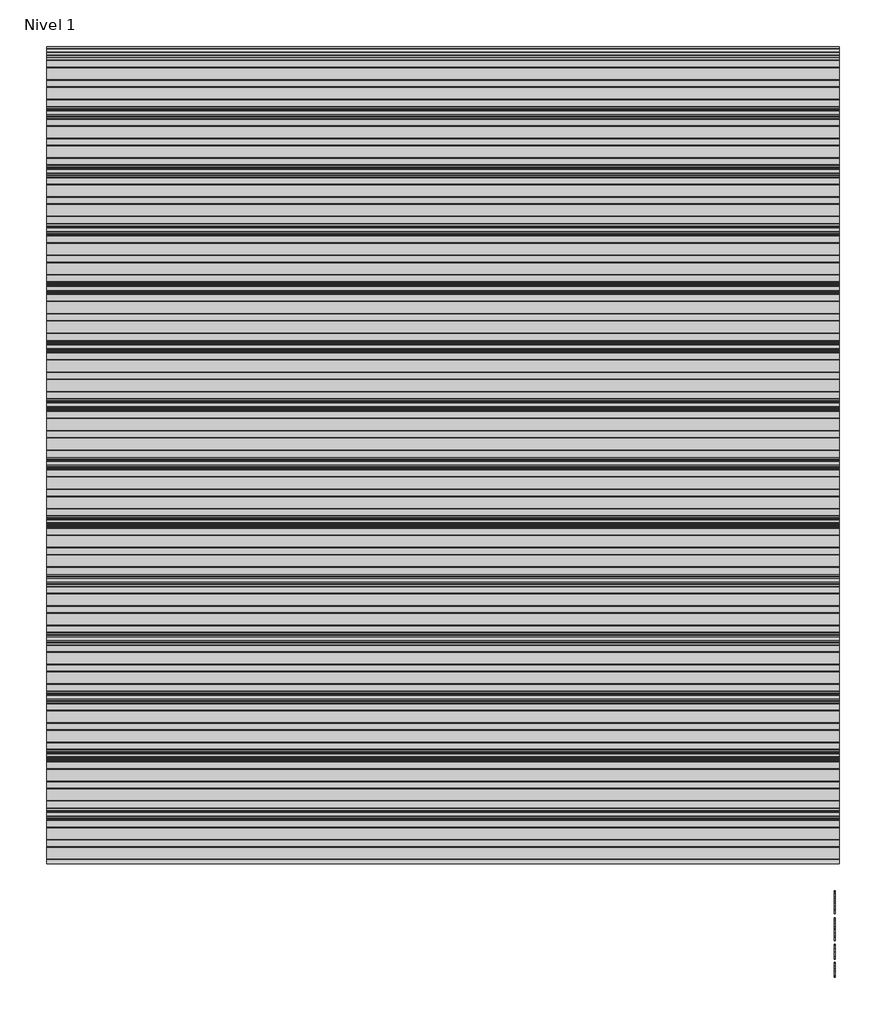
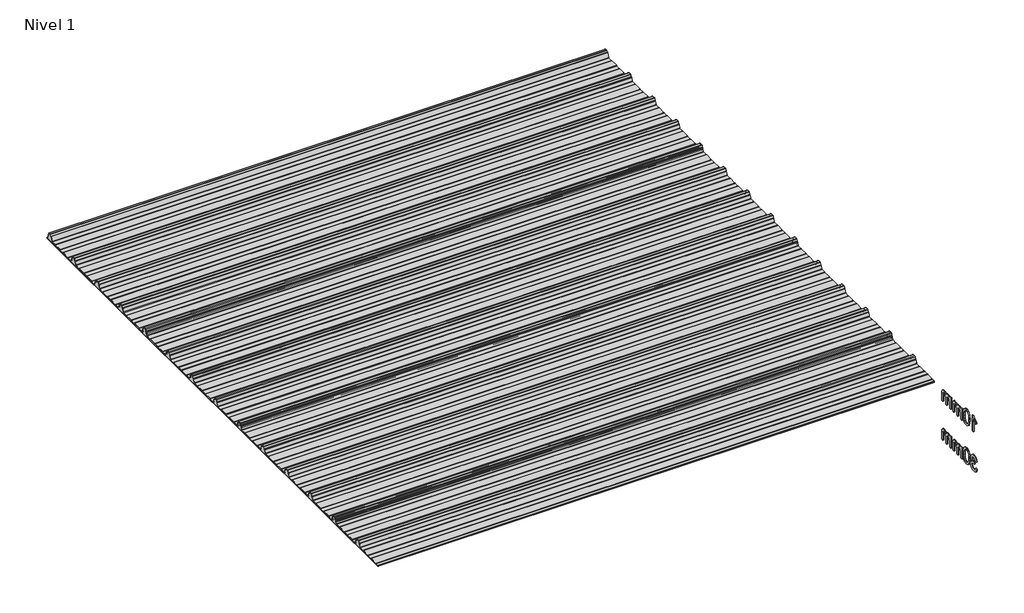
# One storey, incomplete: 4 plates, 2 proxies.
"""IFC4 building model written with IfcOpenShell, lengths in millimetres."""

from ifc_helpers import new_model, si_unit, frame, origin, place, context, project, spatial, polyline, outline, extrude, transform, mapped, element, save
from components import plate_10_mm_16896bcf, plate_10_mm_8220b348, plate_10_mm_17697db5

model = new_model("IFC4")

# Units and contexts
model_context = context("Model", 3, world=origin())
ifc_project = project(units=[si_unit("LENGTHUNIT", "METRE", prefix="MILLI")], contexts=[model_context])

# Site, building, storey
site = spatial("IfcSite", under=ifc_project)
building = spatial("IfcBuilding", under=site)
storey = spatial("IfcBuildingStorey", under=building, Name="Nivel 1", Elevation=0.0)

# Proxies
placement = place(None, origin())
element("IfcBuildingElementProxy", 1, Name="100mm Arial", ObjectType="100mm Arial", at=placement, inside=storey, context=model_context, shape_type="SweptSolid", body=[
    extrude(outline(polyline([(14858.722162, -567.141573), (14846.1651232, -567.141573), (14846.1651232, -488.8562845), (14834.270272, -497.3298331), (14821.0510457, -503.6696661), (14821.0510457, -491.7993404), (14839.4574082, -480.051642), (14850.6287581, -466.6852629), (14858.722162, -466.6852629), (14858.722162, -567.141573)])), frame((9557.0230098, 0.0, 0.0), z_axis=(1.0, 0.0, 0.0), x_axis=(0.0, 1.0, 0.0)), (0.0, 0.0, 1.0), 5.0),
    extrude(outline(polyline([(14888.5451291, -517.7227583), (14892.2362118, -488.8194963), (14903.1990952, -472.1544419), (14921.5073558, -466.6852629), (14936.1735847, -469.9226244), (14946.3026023, -479.2545644), (14952.1887142, -494.116997), (14954.4695826, -517.7227583), (14950.8152881, -546.5033931), (14939.8891929, -563.2052357), (14931.6578332, -567.3347111), (14921.5073558, -568.7112029), (14908.4598077, -566.3199699), (14898.5515193, -559.146271), (14891.0467266, -542.1562542), (14888.5451291, -517.7227583)]), holes=[polyline([(14901.1021678, -517.6982329), (14902.5736958, -537.4504303), (14906.9882798, -548.8823633), (14913.5611047, -554.3362139), (14921.5073558, -556.1541641), (14929.4536069, -554.3300825), (14936.0264319, -548.8578379), (14940.4410159, -537.4197735), (14941.9125438, -517.6982329), (14940.4900668, -498.3905595), (14936.2226356, -486.8697217), (14929.6620734, -481.1491567), (14921.360203, -479.2423016), (14913.4997911, -480.9222961), (14907.1844835, -485.9622794), (14902.6227467, -498.2004871), (14901.1021678, -517.6982329)])]), frame((9557.0230098, 0.0, 0.0), z_axis=(1.0, 0.0, 0.0), x_axis=(0.0, 1.0, 0.0)), (0.0, 0.0, 1.0), 5.0),
    extrude(outline(polyline([(14968.5962512, -567.141573), (14968.5962512, -493.3689703), (14981.15329, -493.3689703), (14981.15329, -505.5090761), (14989.7862541, -495.5639995), (15002.0735128, -491.7993404), (15014.655077, -495.6375759), (15021.5712585, -506.3919929), (15031.3691823, -495.4475035), (15043.7422801, -491.7993404), (15053.181519, -493.3168536), (15060.1620798, -497.8693933), (15064.4754962, -505.5795868), (15065.9133017, -516.5700614), (15065.9133017, -567.141573), (15053.3562629, -567.141573), (15053.3562629, -521.965664), (15052.1913033, -511.4810272), (15047.972923, -506.3184165), (15040.7992241, -504.3563792), (15028.4506518, -509.3840998), (15024.7626348, -515.9262679), (15023.5332958, -525.4973312), (15023.5332958, -567.141573), (15010.9762571, -567.141573), (15010.9762571, -520.5677124), (15008.0699893, -508.4030811), (14998.5418456, -504.3563792), (14989.2466939, -507.0541805), (14983.0662764, -514.9513806), (14981.15329, -529.9364406), (14981.15329, -567.141573), (14968.5962512, -567.141573)])), frame((9557.0230098, 0.0, 0.0), z_axis=(1.0, 0.0, 0.0), x_axis=(0.0, 1.0, 0.0)), (0.0, 0.0, 1.0), 5.0),
    extrude(outline(polyline([(15084.7488598, -567.141573), (15084.7488598, -493.3689703), (15097.3058986, -493.3689703), (15097.3058986, -505.5090761), (15105.9388628, -495.5639995), (15118.2261214, -491.7993404), (15130.8076856, -495.6375759), (15137.7238671, -506.3919929), (15147.5217909, -495.4475035), (15159.8948887, -491.7993404), (15169.3341276, -493.3168536), (15176.3146884, -497.8693933), (15180.6281048, -505.5795868), (15182.0659103, -516.5700614), (15182.0659103, -567.141573), (15169.5088715, -567.141573), (15169.5088715, -521.965664), (15168.3439119, -511.4810272), (15164.1255317, -506.3184165), (15156.9518327, -504.3563792), (15144.6032604, -509.3840998), (15140.9152434, -515.9262679), (15139.6859044, -525.4973312), (15139.6859044, -567.141573), (15127.1288657, -567.141573), (15127.1288657, -520.5677124), (15124.2225979, -508.4030811), (15114.6944542, -504.3563792), (15105.3993025, -507.0541805), (15099.218885, -514.9513806), (15097.3058986, -529.9364406), (15097.3058986, -567.141573), (15084.7488598, -567.141573)])), frame((9557.0230098, 0.0, 0.0), z_axis=(1.0, 0.0, 0.0), x_axis=(0.0, 1.0, 0.0)), (0.0, 0.0, 1.0), 5.0),
])
element("IfcBuildingElementProxy", 2, Name="100mm Arial", ObjectType="100mm Arial", at=placement, inside=storey, context=model_context, shape_type="SweptSolid", body=[
    extrude(outline(polyline([(14811.6332666, -790.4578656), (14824.1903054, -788.8882358), (14831.1187496, -802.1074622), (14844.0804586, -806.1541641), (14852.6888973, -804.7623439), (14859.3352987, -800.5868832), (14865.0006814, -786.8035712), (14859.3843496, -773.8173367), (14845.1105282, -768.6792515), (14836.3058858, -770.0526776), (14837.7038373, -757.4956389), (14839.7149256, -757.6427917), (14853.9642215, -754.0375481), (14858.7098993, -749.4635487), (14860.2917918, -742.9520373), (14855.7055296, -733.1295881), (14843.8842549, -729.2423016), (14831.9158273, -733.1663763), (14825.7599352, -744.9386001), (14813.2028965, -743.3689703), (14816.9001105, -732.0933871), (14823.4790669, -723.6750208), (14832.479913, -718.4327024), (14843.4427965, -716.6852629), (14858.5872719, -720.1310909), (14869.1822734, -729.54887), (14872.8488306, -742.2162733), (14869.3662144, -753.7922935), (14859.0655185, -762.1064266), (14872.7507287, -770.6903398), (14877.5577201, -787.0243004), (14875.1542244, -799.2625081), (14867.9437373, -809.4896275), (14857.0605616, -816.405809), (14843.6390002, -818.7112029), (14831.4988943, -816.7430342), (14821.6151314, -810.8385282), (14814.7418695, -801.8070252), (14811.6332666, -790.4578656)])), frame((9557.0230098, 0.0, 0.0), z_axis=(1.0, 0.0, 0.0), x_axis=(0.0, 1.0, 0.0)), (0.0, 0.0, 1.0), 5.0),
    extrude(outline(polyline([(14888.5451291, -767.7227583), (14892.2362118, -738.8194963), (14903.1990952, -722.1544419), (14921.5073558, -716.6852629), (14936.1735847, -719.9226244), (14946.3026023, -729.2545644), (14952.1887142, -744.116997), (14954.4695826, -767.7227583), (14950.8152881, -796.5033931), (14939.8891929, -813.2052357), (14931.6578332, -817.3347111), (14921.5073558, -818.7112029), (14908.4598077, -816.3199699), (14898.5515193, -809.146271), (14891.0467266, -792.1562542), (14888.5451291, -767.7227583)]), holes=[polyline([(14901.1021678, -767.6982329), (14902.5736958, -787.4504303), (14906.9882798, -798.8823633), (14913.5611047, -804.3362139), (14921.5073558, -806.1541641), (14929.4536069, -804.3300825), (14936.0264319, -798.8578379), (14940.4410159, -787.4197735), (14941.9125438, -767.6982329), (14940.4900668, -748.3905595), (14936.2226356, -736.8697217), (14929.6620734, -731.1491567), (14921.360203, -729.2423016), (14913.4997911, -730.9222961), (14907.1844835, -735.9622794), (14902.6227467, -748.2004871), (14901.1021678, -767.6982329)])]), frame((9557.0230098, 0.0, 0.0), z_axis=(1.0, 0.0, 0.0), x_axis=(0.0, 1.0, 0.0)), (0.0, 0.0, 1.0), 5.0),
    extrude(outline(polyline([(14968.5962512, -817.141573), (14968.5962512, -743.3689703), (14981.15329, -743.3689703), (14981.15329, -755.5090761), (14989.7862541, -745.5639995), (15002.0735128, -741.7993404), (15014.655077, -745.6375759), (15021.5712585, -756.3919929), (15031.3691823, -745.4475035), (15043.7422801, -741.7993404), (15053.181519, -743.3168536), (15060.1620798, -747.8693933), (15064.4754962, -755.5795868), (15065.9133017, -766.5700614), (15065.9133017, -817.141573), (15053.3562629, -817.141573), (15053.3562629, -771.965664), (15052.1913033, -761.4810272), (15047.972923, -756.3184165), (15040.7992241, -754.3563792), (15028.4506518, -759.3840998), (15024.7626348, -765.9262679), (15023.5332958, -775.4973312), (15023.5332958, -817.141573), (15010.9762571, -817.141573), (15010.9762571, -770.5677124), (15008.0699893, -758.4030811), (14998.5418456, -754.3563792), (14989.2466939, -757.0541805), (14983.0662764, -764.9513806), (14981.15329, -779.9364406), (14981.15329, -817.141573), (14968.5962512, -817.141573)])), frame((9557.0230098, 0.0, 0.0), z_axis=(1.0, 0.0, 0.0), x_axis=(0.0, 1.0, 0.0)), (0.0, 0.0, 1.0), 5.0),
    extrude(outline(polyline([(15084.7488598, -817.141573), (15084.7488598, -743.3689703), (15097.3058986, -743.3689703), (15097.3058986, -755.5090761), (15105.9388628, -745.5639995), (15118.2261214, -741.7993404), (15130.8076856, -745.6375759), (15137.7238671, -756.3919929), (15147.5217909, -745.4475035), (15159.8948887, -741.7993404), (15169.3341276, -743.3168536), (15176.3146884, -747.8693933), (15180.6281048, -755.5795868), (15182.0659103, -766.5700614), (15182.0659103, -817.141573), (15169.5088715, -817.141573), (15169.5088715, -771.965664), (15168.3439119, -761.4810272), (15164.1255317, -756.3184165), (15156.9518327, -754.3563792), (15144.6032604, -759.3840998), (15140.9152434, -765.9262679), (15139.6859044, -775.4973312), (15139.6859044, -817.141573), (15127.1288657, -817.141573), (15127.1288657, -770.5677124), (15124.2225979, -758.4030811), (15114.6944542, -754.3563792), (15105.3993025, -757.0541805), (15099.218885, -764.9513806), (15097.3058986, -779.9364406), (15097.3058986, -817.141573), (15084.7488598, -817.141573)])), frame((9557.0230098, 0.0, 0.0), z_axis=(1.0, 0.0, 0.0), x_axis=(0.0, 1.0, 0.0)), (0.0, 0.0, 1.0), 5.0),
])

# Plates
plate_10_mm_shape = plate_10_mm_16896bcf(model_context)
plate_10_mm_2_shape = plate_10_mm_8220b348(model_context)
element("IfcPlate", 3, ObjectType="HIANSA PANEL - H20.F01.009-PANELES DE CUBIERTA SIN TAPAJUNTA - EASY ALU 5GR - Panel de Muro Cortina : 10 mm", at=placement, inside=storey, context=model_context, shape_type="MappedRepresentation", body=[
    mapped(plate_10_mm_shape, transform((9579.0356399, 18298.3330794, -529.5962409), x_axis=(0.0, -1.0, 0.0), y_axis=(0.0, 0.0, 1.0), z_axis=(-1.0, 0.0, 0.0))),
    mapped(plate_10_mm_2_shape, transform((9579.0356399, 18298.3330794, -529.5962409), x_axis=(0.0, -1.0, 0.0), y_axis=(0.0, 0.0, 1.0), z_axis=(-1.0, 0.0, 0.0))),
])
element("IfcPlate", 4, ObjectType="HIANSA PANEL - H20.F01.009-PANELES DE CUBIERTA SIN TAPAJUNTA - EASY ALU 5GR - Panel de Muro Cortina : 10 mm", at=placement, inside=storey, context=model_context, shape_type="MappedRepresentation", body=[
    mapped(plate_10_mm_shape, transform((9579.0356399, 17298.3330793, -529.5962409), x_axis=(0.0, -1.0, 0.0), y_axis=(0.0, 0.0, 1.0), z_axis=(-1.0, 0.0, 0.0))),
    mapped(plate_10_mm_2_shape, transform((9579.0356399, 17298.3330793, -529.5962409), x_axis=(0.0, -1.0, 0.0), y_axis=(0.0, 0.0, 1.0), z_axis=(-1.0, 0.0, 0.0))),
])
element("IfcPlate", 5, ObjectType="HIANSA PANEL - H20.F01.009-PANELES DE CUBIERTA SIN TAPAJUNTA - EASY ALU 5GR - Panel de Muro Cortina : 10 mm", at=placement, inside=storey, context=model_context, shape_type="MappedRepresentation", body=[
    mapped(plate_10_mm_shape, transform((9579.0356399, 16298.3330793, -529.5962409), x_axis=(0.0, -1.0, 0.0), y_axis=(0.0, 0.0, 1.0), z_axis=(-1.0, 0.0, 0.0))),
    mapped(plate_10_mm_2_shape, transform((9579.0356399, 16298.3330793, -529.5962409), x_axis=(0.0, -1.0, 0.0), y_axis=(0.0, 0.0, 1.0), z_axis=(-1.0, 0.0, 0.0))),
])
plate_10_mm_3_shape = plate_10_mm_17697db5(model_context)
element("IfcPlate", 6, ObjectType="HIANSA PANEL - H20.F01.009-PANELES DE CUBIERTA SIN TAPAJUNTA - EASY ALU 5GR - Panel de Muro Cortina : 10 mm", at=placement, inside=storey, context=model_context, shape_type="MappedRepresentation", body=[
    mapped(plate_10_mm_3_shape, transform((9579.0356399, 15548.3330794, -529.5962409), x_axis=(0.0, -1.0, 0.0), y_axis=(0.0, 0.0, 1.0), z_axis=(-1.0, 0.0, 0.0))),
])

save(model, "model.ifc")
